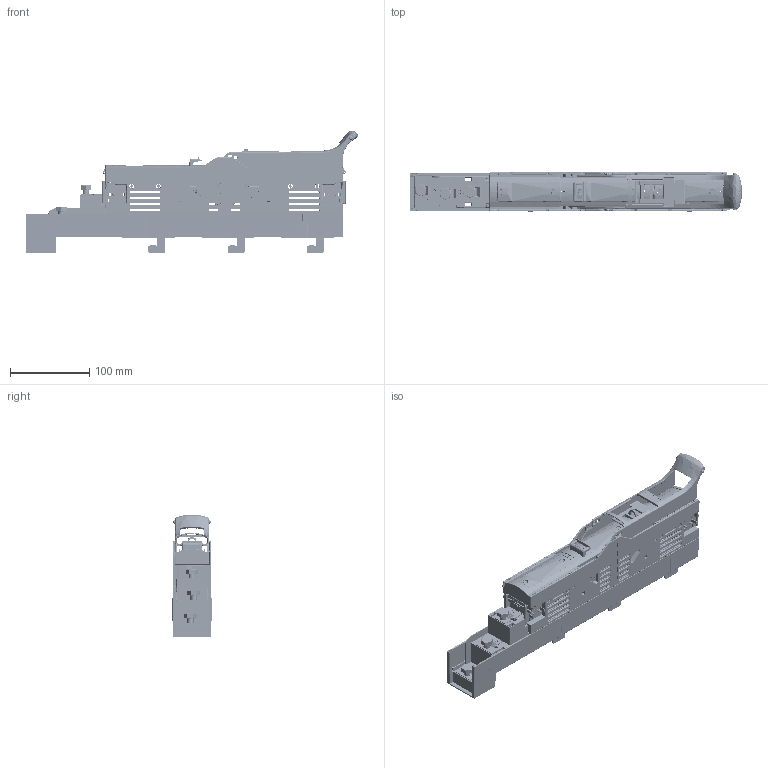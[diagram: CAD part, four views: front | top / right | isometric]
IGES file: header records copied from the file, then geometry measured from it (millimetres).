
Start section: SolidWorks IGES file using analytic representation for surfaces
Global section: file name: U:\14_RD\05_Technical_office\04_Office\Hrdinova\3D modely - IGES\Varius - FSD\FSD00-33K-F__CS-FS00-3H.IGS; native system: SolidWorks 2011; preprocessor: SolidWorks 2011; author: adhrja3; date: 170620.121111; units: millimetre
Bounding box: 418.43 x 49.8 x 154.65 mm (x, y, z)
Surface area: 488947.9 mm2 (no closed solid volume)
Topology: 0 solids, 0 shells, 10117 faces, 82673 edges, 82403 vertices
Faces by surface type: bspline 6254, revolution 3863
